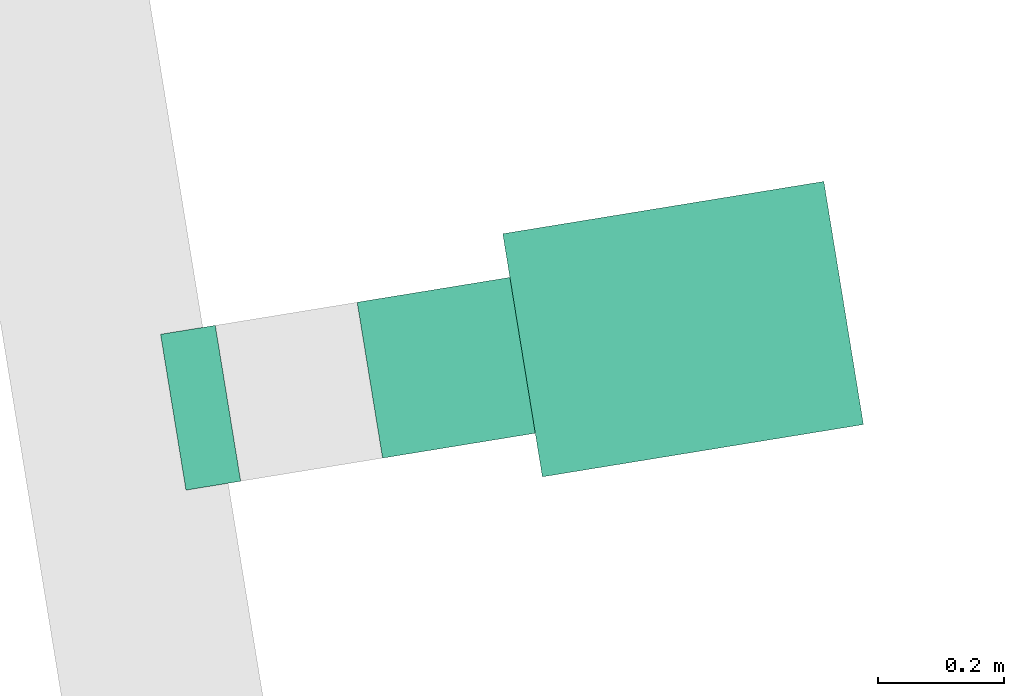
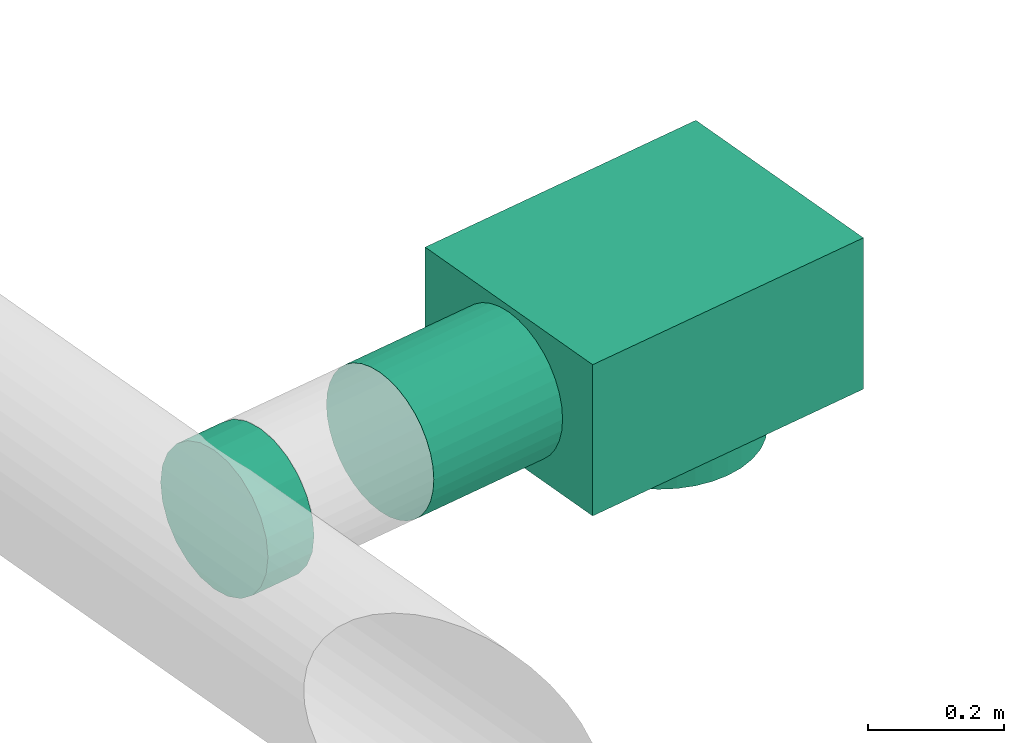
# One storey, part 16 of 19: 1 flow fitting, 1 flow terminal.
"""IFC2X3 building model written with IfcOpenShell, lengths in millimetres."""

import ifcopenshell
import ifcopenshell.guid

model = None  # the IFC model being written
_history = None  # IfcOwnerHistory: only IFC2X3 demands one
_inside = {}  # id of a spatial element -> (the spatial element, [elements in it])
_under = {}  # id of a project, library or spatial element -> (it, [spatial elements below it])
_declared = {}  # id of a project -> (the project, [libraries it declares])
_typed = {}  # id of a type object -> (the type object, [elements of that type])
_made_of = {}  # id of a material, layer set ... -> (it, [elements and type objects made of it])


def new_model(schema):
    """Start an empty IFC model of exactly this schema.

    Asked for "IFC4X3", IfcOpenShell would pick the latest addendum, in which some entities
    have other attributes; the version numbers below select the first issue.
    IFC2X3 requires an IfcOwnerHistory on every rooted entity: one is made here for all.
    """
    global model, _history
    if schema == "IFC4X3":
        model = ifcopenshell.file(schema_version=(4, 3, 0, 0))
    else:
        model = ifcopenshell.file(schema=schema)
    _inside.clear()
    _under.clear()
    _declared.clear()
    _typed.clear()
    _made_of.clear()
    _history = None
    if model.schema == "IFC2X3":
        org = make("IfcOrganization", Name="unknown")
        user = make(
            "IfcPersonAndOrganization",
            ThePerson=make("IfcPerson", FamilyName="unknown"),
            TheOrganization=org,
        )
        app = make(
            "IfcApplication",
            ApplicationDeveloper=org,
            Version="unknown",
            ApplicationFullName="unknown",
            ApplicationIdentifier="unknown",
        )
        _history = make(
            "IfcOwnerHistory",
            OwningUser=user,
            OwningApplication=app,
            ChangeAction="ADDED",
            CreationDate=0,
        )
    return model


def make(cls, **values):
    """One entity of the class cls with the attributes given. An attribute that is None is left unset."""
    return model.create_entity(
        cls, **{name: value for name, value in values.items() if value is not None}
    )


def entity(cls, *values):
    """Any entity or typed value of the class cls, its attributes in the order of the schema. None: left unset."""
    e = model.create_entity(cls)
    for i, value in enumerate(values):
        if value is not None:
            e[i] = value
    return e


def rooted(cls, **values):
    """An entity with a GlobalId (a new one), such as an element, a storey or a relation."""
    return make(cls, GlobalId=ifcopenshell.guid.new(), OwnerHistory=_history, **values)


def si_unit(unit_type, name, prefix=None):
    """IfcSIUnit, for example si_unit("LENGTHUNIT", "METRE", prefix="MILLI")."""
    return make("IfcSIUnit", UnitType=unit_type, Prefix=prefix, Name=name)


def converted_unit(unit_type, name, factor, base, dimensions=None, offset=None):
    """IfcConversionBasedUnit, such as the inch: factor (a typed value) times the base unit."""
    return make(
        "IfcConversionBasedUnit"
        if offset is None
        else "IfcConversionBasedUnitWithOffset",
        ConversionOffset=offset,
        Dimensions=None
        if dimensions is None
        else entity("IfcDimensionalExponents", *dimensions),
        UnitType=unit_type,
        Name=name,
        ConversionFactor=make(
            "IfcMeasureWithUnit", ValueComponent=factor, UnitComponent=base
        ),
    )


def derived_unit(unit_type, elements):
    """IfcDerivedUnit: a product of units, each with its exponent."""
    return make(
        "IfcDerivedUnit",
        Elements=[
            make("IfcDerivedUnitElement", Unit=unit, Exponent=power)
            for unit, power in elements
        ],
        UnitType=unit_type,
    )


def assignment(units):
    """IfcUnitAssignment: the units of a project."""
    return None if units is None else make("IfcUnitAssignment", Units=units)


def point(xyz):
    """IfcCartesianPoint."""
    return None if xyz is None else make("IfcCartesianPoint", Coordinates=xyz)


def direction(xyz):
    """IfcDirection."""
    return None if xyz is None else make("IfcDirection", DirectionRatios=xyz)


def frame(location, z_axis=None, x_axis=None):
    """IfcAxis2Placement3D, a coordinate frame: its origin and axes. An axis left out is left unset."""
    return make(
        "IfcAxis2Placement3D",
        Location=point(location),
        Axis=direction(z_axis),
        RefDirection=direction(x_axis),
    )


def origin():
    """The frame at (0, 0, 0) with its axes left unset."""
    return frame((0.0, 0.0, 0.0))


def origin_with_axes():
    """The frame at (0, 0, 0) with the z axis (0, 0, 1) and the x axis (1, 0, 0) written out."""
    return frame((0.0, 0.0, 0.0), z_axis=(0.0, 0.0, 1.0), x_axis=(1.0, 0.0, 0.0))


def place(relative_to, where):
    """IfcLocalPlacement: puts the frame where relative to a parent placement (None: the world)."""
    return make(
        "IfcLocalPlacement", PlacementRelTo=relative_to, RelativePlacement=where
    )


def context(
    kind, dimensions, precision=None, world=None, true_north=None, identifier=None
):
    """IfcGeometricRepresentationContext, for example the 3D "Model" context."""
    return make(
        "IfcGeometricRepresentationContext",
        ContextIdentifier=identifier,
        ContextType=kind,
        CoordinateSpaceDimension=dimensions,
        Precision=precision,
        WorldCoordinateSystem=world,
        TrueNorth=true_north,
    )


def subcontext(parent, identifier, kind, view, scale=None):
    """IfcGeometricRepresentationSubContext, for example "Body" below "Model"."""
    return make(
        "IfcGeometricRepresentationSubContext",
        ContextIdentifier=identifier,
        ContextType=kind,
        ParentContext=parent,
        TargetScale=scale,
        TargetView=view,
    )


def project(units=None, contexts=None):
    """IfcProject with its units and contexts."""
    return rooted(
        "IfcProject",
        Name="project",
        RepresentationContexts=contexts,
        UnitsInContext=assignment(units),
    )


def spatial(cls, under=None, at=None, **own):
    """A site, building, storey or space (cls), placed at a placement, below another one or the project."""
    s = rooted(cls, ObjectPlacement=at, **own)
    if under is not None:
        _under.setdefault(under.id(), (under, []))[1].append(s)
    return s


def faces_of(points, faces, orient=None, outer=None):
    """IfcFace entities. A face is a list of loops; a loop is a list of indices into points, from 0.

    orient and outer hold one flag for each loop. By default every Orientation is true, the
    first loop of a face is its IfcFaceOuterBound and the others are IfcFaceBound.
    """
    made = []
    for i, loops in enumerate(faces):
        bounds = []
        for j, loop in enumerate(loops):
            is_outer = j == 0 if outer is None else outer[i][j]
            bounds.append(
                make(
                    "IfcFaceOuterBound" if is_outer else "IfcFaceBound",
                    Bound=make("IfcPolyLoop", Polygon=[points[k] for k in loop]),
                    Orientation=True if orient is None else orient[i][j],
                )
            )
        made.append(make("IfcFace", Bounds=bounds))
    return made


def faceted_brep(points, faces, orient=None, outer=None, voids=None):
    """IfcFacetedBrep: a solid bounded by flat faces; with voids (closed shells), ...WithVoids."""
    shared = [point(p) for p in points]
    hull = make("IfcClosedShell", CfsFaces=faces_of(shared, faces, orient, outer))
    if voids is None:
        return make("IfcFacetedBrep", Outer=hull)
    return make(
        "IfcFacetedBrepWithVoids",
        Outer=hull,
        Voids=[
            make(cls, CfsFaces=faces_of(shared, fs, o, b)) for cls, fs, o, b in voids
        ],
    )


def shape(context_of_items, identifier, shape_type, items):
    """IfcShapeRepresentation: the items that make up one representation, for example the "Body"."""
    return make(
        "IfcShapeRepresentation",
        ContextOfItems=context_of_items,
        RepresentationIdentifier=identifier,
        RepresentationType=shape_type,
        Items=items,
    )


def source(mapping_origin, context_of_items, identifier, shape_type, items):
    """IfcRepresentationMap: a shape defined once, which mapped items show again and again."""
    return make(
        "IfcRepresentationMap",
        MappingOrigin=mapping_origin,
        MappedRepresentation=shape(context_of_items, identifier, shape_type, items),
    )


def transform(
    local_origin,
    x_axis=None,
    y_axis=None,
    z_axis=None,
    scale=None,
    scale2=None,
    scale3=None,
    uniform=True,
):
    """IfcCartesianTransformationOperator3D, or its non-uniform kind. x_axis, y_axis, z_axis: its Axis1, 2, 3."""
    if uniform:
        return make(
            "IfcCartesianTransformationOperator3D",
            Axis1=direction(x_axis),
            Axis2=direction(y_axis),
            LocalOrigin=point(local_origin),
            Scale=scale,
            Axis3=direction(z_axis),
        )
    return make(
        "IfcCartesianTransformationOperator3DnonUniform",
        Axis1=direction(x_axis),
        Axis2=direction(y_axis),
        LocalOrigin=point(local_origin),
        Scale=scale,
        Axis3=direction(z_axis),
        Scale2=scale2,
        Scale3=scale3,
    )


def mapped(mapping_source, mapping_target):
    """IfcMappedItem: shows the shape of a source again, moved by a transform."""
    return make(
        "IfcMappedItem", MappingSource=mapping_source, MappingTarget=mapping_target
    )


def material(Name=None, Category=None):
    """IfcMaterial."""
    return make("IfcMaterial", Name=Name, Category=Category)


def made_of(thing, what):
    """Note that an element or type object is made of a material, layer set ...; save() writes the relation."""
    if what is not None:
        _made_of.setdefault(what.id(), (what, []))[1].append(thing)
    return thing


def type_object(cls, material=None, **own):
    """A type object (cls), such as IfcWallType, which elements share."""
    return made_of(rooted(cls, **own), material)


def element(
    cls,
    number,
    at=None,
    inside=None,
    cuts=None,
    type_object=None,
    material=None,
    context=None,
    identifier="Body",
    shape_type=None,
    held_by="IfcProductDefinitionShape",
    body=None,
    shapes=None,
    **own,
):
    """One element of the class cls, such as IfcWall. Its Tag is "e" and its number.

    at: its placement. inside: the storey or other place that contains it. cuts: it is an
    opening in that element (IfcRelVoidsElement). A single representation is given by context,
    identifier, shape_type and body (its items); several are given by shapes. held_by: the class
    of the entity that holds the representations. save() writes the other relations.
    """
    e = rooted(cls, Tag="e%d" % number, ObjectPlacement=at, **own)
    if body is not None:
        shapes = [shape(context, identifier, shape_type, body)]
    if shapes is not None:
        e.Representation = make(held_by, Representations=shapes)
    if inside is not None:
        _inside.setdefault(inside.id(), (inside, []))[1].append(e)
    if cuts is not None:
        rooted(
            "IfcRelVoidsElement", RelatingBuildingElement=cuts, RelatedOpeningElement=e
        )
    if type_object is not None:
        _typed.setdefault(type_object.id(), (type_object, []))[1].append(e)
    return made_of(e, material)


def aggregate(whole, parts):
    """IfcRelAggregates: a whole, such as a stair, and the parts it consists of."""
    return rooted("IfcRelAggregates", RelatingObject=whole, RelatedObjects=parts)


def save(model, path):
    """Write the relations noted so far, then the file.

    IfcRelAggregates (storeys below a building ...), IfcRelContainedInSpatialStructure (elements
    in a storey), IfcRelDefinesByType, IfcRelAssociatesMaterial and IfcRelDeclares: one each for
    every whole, place, type object, material and project.
    """
    for whole, parts in _under.values():
        aggregate(whole, parts)
    for where, things in _inside.values():
        rooted(
            "IfcRelContainedInSpatialStructure",
            RelatedElements=things,
            RelatingStructure=where,
        )
    for kind, things in _typed.values():
        rooted("IfcRelDefinesByType", RelatedObjects=things, RelatingType=kind)
    for what, things in _made_of.values():
        rooted("IfcRelAssociatesMaterial", RelatedObjects=things, RelatingMaterial=what)
    for by, libraries in _declared.values():
        rooted("IfcRelDeclares", RelatingContext=by, RelatedDefinitions=libraries)
    model.write(path)


model = new_model("IFC2X3")

# Units and contexts
model_context = context("Model", 3, precision=0.01, world=origin(), true_north=direction((6.12323399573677e-17, 1.0)))
plan_context = context("Plan", 3, precision=1e-05, world=origin_with_axes())
body_context = subcontext(model_context, "Body", "Model", "MODEL_VIEW")
ifc_project = project(units=[converted_unit("PLANEANGLEUNIT", "DEGREE", entity("IfcPositiveLengthMeasure", 0.0174532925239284), si_unit("PLANEANGLEUNIT", "RADIAN"), dimensions=[0, 0, 0, 0, 0, 0, 0]), si_unit("AREAUNIT", "SQUARE_METRE"), si_unit("LENGTHUNIT", "METRE", prefix="MILLI"), si_unit("MASSUNIT", "GRAM", prefix="KILO"), si_unit("POWERUNIT", "WATT"), si_unit("PRESSUREUNIT", "PASCAL", prefix="KILO"), si_unit("FORCEUNIT", "NEWTON", prefix="KILO"), si_unit("ELECTRICVOLTAGEUNIT", "VOLT"), si_unit("ELECTRICCURRENTUNIT", "AMPERE"), si_unit("THERMODYNAMICTEMPERATUREUNIT", "DEGREE_CELSIUS"), si_unit("TIMEUNIT", "SECOND"), si_unit("VOLUMEUNIT", "CUBIC_METRE"), derived_unit("LINEARVELOCITYUNIT", [(si_unit("LENGTHUNIT", "METRE"), 1), (si_unit("TIMEUNIT", "SECOND"), -1)]), derived_unit("VOLUMETRICFLOWRATEUNIT", [(si_unit("VOLUMEUNIT", "CUBIC_METRE"), 1), (si_unit("TIMEUNIT", "SECOND"), -1)]), derived_unit("THERMALTRANSMITTANCEUNIT", [(si_unit("POWERUNIT", "WATT"), 1), (si_unit("THERMODYNAMICTEMPERATUREUNIT", "KELVIN"), -1), (si_unit("AREAUNIT", "SQUARE_METRE"), -1)]), derived_unit("SOUNDPRESSUREUNIT", [(si_unit("PRESSUREUNIT", "PASCAL"), 1)])], contexts=[model_context, plan_context])

# Site, building, storey
site_placement = place(None, frame((5.09380697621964e-08, 5.80416781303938e-08, 0.0), z_axis=(0.0, 0.0, 1.0), x_axis=(-0.160806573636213, 0.986985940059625, 0.0)))
site = spatial("IfcSite", under=ifc_project, at=site_placement, Name="Default", CompositionType="ELEMENT")
building_placement = place(site_placement, frame((0.0, 0.0, 0.0), z_axis=(0.0, 0.0, 1.0), x_axis=(1.0, -2.77555756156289e-17, 0.0)))
building = spatial("IfcBuilding", under=site, at=building_placement, Name="Bygning (endres i Project Information)", CompositionType="ELEMENT")
storey_placement = place(building_placement, frame((0.0, 0.0, 51360.0000000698), z_axis=(0.0, 0.0, 1.0), x_axis=(1.0, -2.77555756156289e-17, 0.0)))
storey = spatial("IfcBuildingStorey", under=building, at=storey_placement, Name="H01-Nivå D+0,36", CompositionType="ELEMENT", Elevation=51360.0000000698)

# Flow fitting
ifc_material = material(Name="3601.001 Tilluft")
duct_fitting_type = type_object("IfcDuctFittingType", Name="magicirc_tapoutlet_001:magicirc_tapoutlet_001", PredefinedType="NOTDEFINED", material=ifc_material)
shared_shape = source(origin(), body_context, "Body", "Brep", [
    faceted_brep([(-67.7771606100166, -32.3523806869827, -120.74072846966), (-67.7771606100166, -62.5000000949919, -108.253175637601), (-67.7771606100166, -88.3883477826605, -88.3883477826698), (-67.7771606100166, -108.253175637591, -62.5000000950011), (-67.7771606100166, -120.740728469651, -32.3523806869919), (-67.7771606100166, -125.000000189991, 0.0), (-67.7771606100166, -120.74072846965, 32.3523806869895), (-67.7771606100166, -108.25317563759, 62.5000000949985), (-67.7771606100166, -88.3883477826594, 88.3883477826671), (-67.7771606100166, -62.5000000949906, 108.253175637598), (-67.7771606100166, -32.3523806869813, 120.740728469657), (-67.7771606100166, 0.0, 125.000000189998), (-67.7771606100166, 32.3523806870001, 120.740728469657), (-67.7771606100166, 62.5000000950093, 108.253175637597), (-67.7771606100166, 88.3883477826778, 88.388347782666), (-67.7771606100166, 108.253175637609, 62.5000000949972), (-67.7771606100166, 120.740728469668, 32.3523806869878), (-67.7771606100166, 125.00000019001, 0.0), (-67.7771606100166, 120.740728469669, -32.3523806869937), (-67.7771606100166, 108.253175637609, -62.5000000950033), (-67.7771606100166, 88.3883477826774, -88.3883477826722), (-67.7771606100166, 62.500000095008, -108.253175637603), (-67.7771606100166, 32.352380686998, -120.740728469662), (-67.7771606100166, 0.0, -125.000000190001), (0.0, -32.3523806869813, 120.740728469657), (20.0, -32.3523806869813, 120.740728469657), (20.0, 0.0, 125.000000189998), (0.0, 0.0, 125.000000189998), (0.0, -62.5000000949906, 108.253175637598), (20.0, -62.5000000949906, 108.253175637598), (0.0, -88.3883477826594, 88.3883477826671), (20.0, -88.3883477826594, 88.3883477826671), (0.0, -120.74072846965, 32.3523806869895), (20.0, -120.74072846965, 32.3523806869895), (20.0, -108.25317563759, 62.5000000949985), (0.0, -108.25317563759, 62.5000000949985), (0.0, -125.000000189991, 0.0), (20.0, -125.000000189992, 0.0), (0.0, -120.740728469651, -32.3523806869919), (20.0, -120.740728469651, -32.3523806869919), (0.0, -108.253175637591, -62.5000000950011), (20.0, -108.253175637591, -62.5000000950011), (0.0, -88.3883477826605, -88.3883477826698), (20.0, -88.3883477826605, -88.3883477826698), (0.0, -32.3523806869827, -120.74072846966), (20.0, -32.3523806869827, -120.74072846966), (20.0, -62.5000000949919, -108.253175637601), (0.0, -62.5000000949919, -108.253175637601), (0.0, 0.0, -125.000000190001), (20.0, 0.0, -125.000000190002), (0.0, 32.352380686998, -120.740728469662), (20.0, 32.352380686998, -120.740728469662), (0.0, 62.500000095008, -108.253175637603), (20.0, 62.500000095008, -108.253175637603), (0.0, 88.3883477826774, -88.3883477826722), (20.0, 88.3883477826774, -88.3883477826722), (0.0, 120.740728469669, -32.3523806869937), (20.0, 120.740728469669, -32.3523806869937), (20.0, 108.253175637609, -62.5000000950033), (0.0, 108.253175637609, -62.5000000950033), (0.0, 125.00000019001, 0.0), (20.0, 125.000000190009, 0.0), (0.0, 120.740728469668, 32.3523806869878), (20.0, 120.740728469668, 32.3523806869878), (0.0, 108.253175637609, 62.5000000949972), (20.0, 108.253175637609, 62.5000000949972), (0.0, 88.3883477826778, 88.388347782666), (20.0, 88.3883477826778, 88.388347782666), (0.0, 32.3523806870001, 120.740728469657), (20.0, 32.3523806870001, 120.740728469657), (20.0, 62.5000000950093, 108.253175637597), (0.0, 62.5000000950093, 108.253175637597)], [[[0, 1, 2, 3, 4, 5, 6, 7, 8, 9, 10, 11, 12, 13, 14, 15, 16, 17, 18, 19, 20, 21, 22, 23]], [[24, 25, 26, 27, 11, 10]], [[28, 29, 25, 24, 10, 9]], [[30, 31, 29, 28, 9, 8]], [[32, 33, 34, 35, 7, 6]], [[36, 37, 33, 32, 6, 5]], [[7, 35, 34, 31, 30, 8]], [[38, 39, 37, 36, 5, 4]], [[40, 41, 39, 38, 4, 3]], [[42, 43, 41, 40, 3, 2]], [[44, 45, 46, 47, 1, 0]], [[48, 49, 45, 44, 0, 23]], [[1, 47, 46, 43, 42, 2]], [[50, 51, 49, 48, 23, 22]], [[52, 53, 51, 50, 22, 21]], [[54, 55, 53, 52, 21, 20]], [[56, 57, 58, 59, 19, 18]], [[60, 61, 57, 56, 18, 17]], [[19, 59, 58, 55, 54, 20]], [[62, 63, 61, 60, 17, 16]], [[64, 65, 63, 62, 16, 15]], [[66, 67, 65, 64, 15, 14]], [[68, 69, 70, 71, 13, 12]], [[27, 26, 69, 68, 12, 11]], [[13, 71, 70, 67, 66, 14]], [[49, 51, 53, 55, 58, 57, 61, 63, 65, 67, 70, 69, 26, 25, 29, 31, 34, 33, 37, 39, 41, 43, 46, 45]]]),
    faceted_brep([(20.0, 0.0, -125.000000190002), (20.0, 32.352380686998, -120.740728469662), (20.0, 62.500000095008, -108.253175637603), (20.0, 88.3883477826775, -88.3883477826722), (20.0, 108.253175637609, -62.5000000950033), (20.0, 120.740728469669, -32.3523806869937), (20.0, 125.000000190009, 0.0), (20.0, 120.740728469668, 32.3523806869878), (20.0, 108.253175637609, 62.5000000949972), (20.0, 88.3883477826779, 88.388347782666), (20.0, 62.5000000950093, 108.253175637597), (20.0, 32.3523806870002, 120.740728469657), (20.0, 0.0, 125.000000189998), (20.0, -32.3523806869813, 120.740728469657), (20.0, -62.5000000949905, 108.253175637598), (20.0, -88.3883477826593, 88.3883477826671), (20.0, -108.25317563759, 62.5000000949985), (20.0, -120.74072846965, 32.3523806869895), (20.0, -125.000000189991, 0.0), (20.0, -120.740728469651, -32.3523806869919), (20.0, -108.253175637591, -62.5000000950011), (20.0, -88.3883477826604, -88.3883477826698), (20.0, -62.5000000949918, -108.253175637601), (20.0, -32.3523806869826, -120.74072846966), (0.0, 0.0, 125.000000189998), (-67.7771606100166, 0.0, 125.000000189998), (-67.7771606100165, -32.3523806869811, 120.740728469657), (0.0, -32.3523806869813, 120.740728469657), (-67.7771606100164, -62.5000000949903, 108.253175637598), (0.0, -62.5000000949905, 108.253175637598), (0.0, -88.3883477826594, 88.3883477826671), (-67.7771606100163, -88.3883477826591, 88.3883477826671), (0.0, -108.25317563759, 62.5000000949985), (-67.7771606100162, -108.25317563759, 62.5000000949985), (-67.7771606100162, -120.74072846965, 32.3523806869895), (0.0, -120.74072846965, 32.3523806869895), (-67.7771606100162, -125.000000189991, 0.0), (0.0, -125.000000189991, 0.0), (-67.7771606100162, -120.740728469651, -32.3523806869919), (0.0, -120.740728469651, -32.3523806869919), (-67.7771606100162, -108.253175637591, -62.5000000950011), (0.0, -108.253175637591, -62.5000000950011), (0.0, -88.3883477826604, -88.3883477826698), (-67.7771606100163, -88.3883477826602, -88.3883477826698), (0.0, 0.0, -125.000000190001), (0.0, -32.3523806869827, -120.74072846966), (-67.7771606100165, -32.3523806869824, -120.74072846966), (-67.7771606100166, 0.0, -125.000000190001), (0.0, -62.5000000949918, -108.253175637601), (-67.7771606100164, -62.5000000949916, -108.253175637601), (-67.7771606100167, 32.3523806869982, -120.740728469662), (0.0, 32.352380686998, -120.740728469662), (-67.7771606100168, 62.5000000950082, -108.253175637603), (0.0, 62.500000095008, -108.253175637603), (0.0, 88.3883477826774, -88.3883477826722), (-67.7771606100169, 88.3883477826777, -88.3883477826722), (0.0, 108.253175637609, -62.5000000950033), (-67.7771606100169, 108.253175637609, -62.5000000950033), (-67.777160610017, 120.74072846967, -32.3523806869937), (0.0, 120.740728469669, -32.3523806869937), (-67.777160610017, 125.00000019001, 0.0), (0.0, 125.00000019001, 0.0), (-67.777160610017, 120.740728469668, 32.3523806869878), (0.0, 120.740728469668, 32.3523806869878), (-67.7771606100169, 108.253175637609, 62.5000000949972), (0.0, 108.253175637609, 62.5000000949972), (0.0, 88.3883477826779, 88.388347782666), (-67.7771606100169, 88.3883477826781, 88.388347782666), (0.0, 62.5000000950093, 108.253175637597), (-67.7771606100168, 62.5000000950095, 108.253175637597), (-67.7771606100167, 32.3523806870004, 120.740728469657), (0.0, 32.3523806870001, 120.740728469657)], [[[0, 1, 2, 3, 4, 5, 6, 7, 8, 9, 10, 11, 12, 13, 14, 15, 16, 17, 18, 19, 20, 21, 22, 23]], [[13, 12, 24, 25, 26, 27]], [[14, 13, 27, 26, 28, 29]], [[30, 15, 14, 29, 28, 31]], [[17, 16, 32, 33, 34, 35]], [[18, 17, 35, 34, 36, 37]], [[32, 16, 15, 30, 31, 33]], [[19, 18, 37, 36, 38, 39]], [[20, 19, 39, 38, 40, 41]], [[42, 21, 20, 41, 40, 43]], [[44, 0, 23, 45, 46, 47]], [[45, 23, 22, 48, 49, 46]], [[48, 22, 21, 42, 43, 49]], [[1, 0, 44, 47, 50, 51]], [[2, 1, 51, 50, 52, 53]], [[54, 3, 2, 53, 52, 55]], [[5, 4, 56, 57, 58, 59]], [[6, 5, 59, 58, 60, 61]], [[56, 4, 3, 54, 55, 57]], [[7, 6, 61, 60, 62, 63]], [[8, 7, 63, 62, 64, 65]], [[66, 9, 8, 65, 64, 67]], [[11, 10, 68, 69, 70, 71]], [[12, 11, 71, 70, 25, 24]], [[68, 10, 9, 66, 67, 69]], [[46, 49, 43, 40, 38, 36, 34, 33, 31, 28, 26, 25, 70, 69, 67, 64, 62, 60, 58, 57, 55, 52, 50, 47]]]),
    faceted_brep([(-67.7771606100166, -32.3523806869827, -120.74072846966), (-67.7771606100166, -62.5000000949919, -108.253175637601), (-67.7771606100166, -88.3883477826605, -88.3883477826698), (-67.7771606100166, -108.253175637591, -62.5000000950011), (-67.7771606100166, -120.740728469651, -32.3523806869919), (-67.7771606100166, -125.000000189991, 0.0), (-67.7771606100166, -120.74072846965, 32.3523806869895), (-67.7771606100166, -108.25317563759, 62.5000000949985), (-67.7771606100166, -88.3883477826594, 88.3883477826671), (-67.7771606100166, -62.5000000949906, 108.253175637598), (-67.7771606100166, -32.3523806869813, 120.740728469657), (-67.7771606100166, 0.0, 125.000000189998), (-67.7771606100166, 32.3523806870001, 120.740728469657), (-67.7771606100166, 62.5000000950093, 108.253175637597), (-67.7771606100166, 88.3883477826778, 88.388347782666), (-67.7771606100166, 108.253175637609, 62.5000000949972), (-67.7771606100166, 120.740728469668, 32.3523806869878), (-67.7771606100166, 125.00000019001, 0.0), (-67.7771606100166, 120.740728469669, -32.3523806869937), (-67.7771606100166, 108.253175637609, -62.5000000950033), (-67.7771606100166, 88.3883477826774, -88.3883477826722), (-67.7771606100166, 62.500000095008, -108.253175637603), (-67.7771606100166, 32.352380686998, -120.740728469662), (-67.7771606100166, 0.0, -125.000000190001), (0.0, -32.3523806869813, 120.740728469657), (20.0, -32.3523806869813, 120.740728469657), (20.0, 0.0, 125.000000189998), (0.0, 0.0, 125.000000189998), (0.0, -62.5000000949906, 108.253175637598), (20.0, -62.5000000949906, 108.253175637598), (0.0, -88.3883477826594, 88.3883477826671), (20.0, -88.3883477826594, 88.3883477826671), (0.0, -120.74072846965, 32.3523806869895), (20.0, -120.74072846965, 32.3523806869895), (20.0, -108.25317563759, 62.5000000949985), (0.0, -108.25317563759, 62.5000000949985), (0.0, -125.000000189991, 0.0), (20.0, -125.000000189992, 0.0), (0.0, -120.740728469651, -32.3523806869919), (20.0, -120.740728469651, -32.3523806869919), (0.0, -108.253175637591, -62.5000000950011), (20.0, -108.253175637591, -62.5000000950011), (0.0, -88.3883477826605, -88.3883477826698), (20.0, -88.3883477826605, -88.3883477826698), (0.0, -32.3523806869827, -120.74072846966), (20.0, -32.3523806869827, -120.74072846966), (20.0, -62.5000000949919, -108.253175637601), (0.0, -62.5000000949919, -108.253175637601), (0.0, 0.0, -125.000000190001), (20.0, 0.0, -125.000000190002), (0.0, 32.352380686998, -120.740728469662), (20.0, 32.352380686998, -120.740728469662), (0.0, 62.500000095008, -108.253175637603), (20.0, 62.500000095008, -108.253175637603), (0.0, 88.3883477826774, -88.3883477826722), (20.0, 88.3883477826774, -88.3883477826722), (0.0, 120.740728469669, -32.3523806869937), (20.0, 120.740728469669, -32.3523806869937), (20.0, 108.253175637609, -62.5000000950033), (0.0, 108.253175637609, -62.5000000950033), (0.0, 125.00000019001, 0.0), (20.0, 125.000000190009, 0.0), (0.0, 120.740728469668, 32.3523806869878), (20.0, 120.740728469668, 32.3523806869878), (0.0, 108.253175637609, 62.5000000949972), (20.0, 108.253175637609, 62.5000000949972), (0.0, 88.3883477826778, 88.388347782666), (20.0, 88.3883477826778, 88.388347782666), (0.0, 32.3523806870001, 120.740728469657), (20.0, 32.3523806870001, 120.740728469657), (20.0, 62.5000000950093, 108.253175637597), (0.0, 62.5000000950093, 108.253175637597)], [[[0, 1, 2, 3, 4, 5, 6, 7, 8, 9, 10, 11, 12, 13, 14, 15, 16, 17, 18, 19, 20, 21, 22, 23]], [[24, 25, 26, 27, 11, 10]], [[28, 29, 25, 24, 10, 9]], [[30, 31, 29, 28, 9, 8]], [[32, 33, 34, 35, 7, 6]], [[36, 37, 33, 32, 6, 5]], [[7, 35, 34, 31, 30, 8]], [[38, 39, 37, 36, 5, 4]], [[40, 41, 39, 38, 4, 3]], [[42, 43, 41, 40, 3, 2]], [[44, 45, 46, 47, 1, 0]], [[48, 49, 45, 44, 0, 23]], [[1, 47, 46, 43, 42, 2]], [[50, 51, 49, 48, 23, 22]], [[52, 53, 51, 50, 22, 21]], [[54, 55, 53, 52, 21, 20]], [[56, 57, 58, 59, 19, 18]], [[60, 61, 57, 56, 18, 17]], [[19, 59, 58, 55, 54, 20]], [[62, 63, 61, 60, 17, 16]], [[64, 65, 63, 62, 16, 15]], [[66, 67, 65, 64, 15, 14]], [[68, 69, 70, 71, 13, 12]], [[27, 26, 69, 68, 12, 11]], [[13, 71, 70, 67, 66, 14]], [[49, 51, 53, 55, 58, 57, 61, 63, 65, 67, 70, 69, 26, 25, 29, 31, 34, 33, 37, 39, 41, 43, 46, 45]]]),
])
flow_fitting_placement = place(storey_placement, frame((1007095.04333221, -393498.668779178, 3350.0), z_axis=(0.0, 0.0, -1.0), x_axis=(-2.77555756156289e-17, -1.0, 0.0)))
element("IfcFlowFitting", 1, at=flow_fitting_placement, inside=storey, type_object=duct_fitting_type, material=ifc_material, Name="magicirc_tapoutlet_001:magicirc_tapoutlet_001", ObjectType="magicirc_tapoutlet_001:magicirc_tapoutlet_001", context=body_context, shape_type="MappedRepresentation", body=[
    mapped(shared_shape, transform((0.0, 0.0, 0.0), scale=1.0)),
])

# Flow terminal
air_terminal_type = type_object("IfcAirTerminalType", Name="Orion-LOV-TA+Luna:Orion-LOV-TA-315+Luna-250-315", PredefinedType="NOTDEFINED", material=ifc_material)
flow_terminal_placement = place(storey_placement, frame((1007095.04333221, -394278.28836624, 2700.0), z_axis=(0.0, 0.0, 1.0), x_axis=(-2.77555756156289e-17, -1.0, 0.0)))
element("IfcFlowTerminal", 2, at=flow_terminal_placement, inside=storey, type_object=air_terminal_type, Name="Orion-LOV-TA+Luna:Orion-LOV-TA-315+Luna-250-315", ObjectType="Orion-LOV-TA+Luna:Orion-LOV-TA-315+Luna-250-315", context=body_context, shape_type="Brep", body=[
    faceted_brep([(-287.0, -195.0, 514.0), (-287.0, -195.0, 786.0), (228.0, -195.0, 786.0), (228.0, -195.0, 514.0), (228.0, 195.0, 786.0), (228.0, 195.0, 514.0), (-287.0, 195.0, 786.0), (-287.0, 195.0, 514.0)], [[[0, 1, 2, 3]], [[3, 2, 4, 5]], [[5, 4, 6, 7]], [[7, 6, 1, 0]], [[0, 3, 5, 7]], [[2, 1, 6, 4]]], orient=[[False], [False], [False], [False], [False], [False]]),
    faceted_brep([(-532.0, -21.7060222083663, 526.899030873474), (-287.0, -21.7060222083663, 526.899030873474), (-287.0, -8.45989944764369e-15, 525.0), (-532.0, -8.45989944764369e-15, 525.0), (-287.0, 21.7060222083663, 526.899030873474), (-532.0, 21.7060222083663, 526.899030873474), (-287.0, 42.7525179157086, 532.538422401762), (-532.0, 42.7525179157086, 532.538422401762), (-287.0, 62.5, 541.746824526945), (-532.0, 62.5, 541.746824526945), (-287.0, 80.3484512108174, 554.244444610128), (-532.0, 80.3484512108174, 554.244444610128), (-287.0, 95.7555553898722, 569.651548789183), (-532.0, 95.7555553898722, 569.651548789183), (-287.0, 108.253175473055, 587.5), (-532.0, 108.253175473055, 587.5), (-287.0, 117.461577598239, 607.247482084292), (-532.0, 117.461577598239, 607.247482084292), (-287.0, 123.100969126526, 628.293977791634), (-532.0, 123.100969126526, 628.293977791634), (-287.0, 125.0, 650.0), (-532.0, 125.0, 650.0), (-287.0, 123.100969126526, 671.706022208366), (-532.0, 123.100969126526, 671.706022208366), (-287.0, 117.461577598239, 692.752517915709), (-532.0, 117.461577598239, 692.752517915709), (-287.0, 108.253175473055, 712.5), (-532.0, 108.253175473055, 712.5), (-287.0, 95.7555553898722, 730.348451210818), (-532.0, 95.7555553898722, 730.348451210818), (-287.0, 80.3484512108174, 745.755555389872), (-532.0, 80.3484512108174, 745.755555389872), (-287.0, 62.5, 758.253175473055), (-532.0, 62.5, 758.253175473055), (-287.0, 42.7525179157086, 767.461577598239), (-532.0, 42.7525179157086, 767.461577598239), (-287.0, 21.7060222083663, 773.100969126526), (-532.0, 21.7060222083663, 773.100969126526), (-287.0, 6.84818554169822e-15, 775.0), (-532.0, 6.84818554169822e-15, 775.0), (-287.0, -21.7060222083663, 773.100969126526), (-532.0, -21.7060222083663, 773.100969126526), (-287.0, -42.7525179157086, 767.461577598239), (-532.0, -42.7525179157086, 767.461577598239), (-287.0, -62.5, 758.253175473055), (-532.0, -62.5, 758.253175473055), (-287.0, -80.3484512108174, 745.755555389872), (-532.0, -80.3484512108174, 745.755555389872), (-287.0, -95.7555553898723, 730.348451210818), (-532.0, -95.7555553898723, 730.348451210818), (-287.0, -108.253175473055, 712.5), (-532.0, -108.253175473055, 712.5), (-287.0, -117.461577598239, 692.752517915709), (-532.0, -117.461577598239, 692.752517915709), (-287.0, -123.100969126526, 671.706022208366), (-532.0, -123.100969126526, 671.706022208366), (-287.0, -125.0, 650.0), (-532.0, -125.0, 650.0), (-287.0, -123.100969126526, 628.293977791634), (-532.0, -123.100969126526, 628.293977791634), (-287.0, -117.461577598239, 607.247482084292), (-532.0, -117.461577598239, 607.247482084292), (-287.0, -108.253175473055, 587.5), (-532.0, -108.253175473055, 587.5), (-287.0, -95.7555553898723, 569.651548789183), (-532.0, -95.7555553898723, 569.651548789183), (-287.0, -80.3484512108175, 554.244444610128), (-532.0, -80.3484512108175, 554.244444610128), (-287.0, -62.5000000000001, 541.746824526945), (-532.0, -62.5000000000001, 541.746824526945), (-287.0, -42.7525179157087, 532.538422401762), (-532.0, -42.7525179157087, 532.538422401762)], [[[0, 1, 2, 3]], [[3, 2, 4, 5]], [[5, 4, 6, 7]], [[7, 6, 8, 9]], [[9, 8, 10, 11]], [[11, 10, 12, 13]], [[13, 12, 14, 15]], [[15, 14, 16, 17]], [[17, 16, 18, 19]], [[19, 18, 20, 21]], [[21, 20, 22, 23]], [[23, 22, 24, 25]], [[25, 24, 26, 27]], [[27, 26, 28, 29]], [[29, 28, 30, 31]], [[31, 30, 32, 33]], [[33, 32, 34, 35]], [[35, 34, 36, 37]], [[37, 36, 38, 39]], [[39, 38, 40, 41]], [[41, 40, 42, 43]], [[43, 42, 44, 45]], [[45, 44, 46, 47]], [[47, 46, 48, 49]], [[49, 48, 50, 51]], [[51, 50, 52, 53]], [[53, 52, 54, 55]], [[55, 54, 56, 57]], [[57, 56, 58, 59]], [[59, 58, 60, 61]], [[61, 60, 62, 63]], [[63, 62, 64, 65]], [[65, 64, 66, 67]], [[67, 66, 68, 69]], [[69, 68, 70, 71]], [[71, 70, 1, 0]], [[0, 3, 5, 7, 9, 11, 13, 15, 17, 19, 21, 23, 25, 27, 29, 31, 33, 35, 37, 39, 41, 43, 45, 47, 49, 51, 53, 55, 57, 59, 61, 63, 65, 67, 69, 71]], [[2, 1, 70, 68, 66, 64, 62, 60, 58, 56, 54, 52, 50, 48, 46, 44, 42, 40, 38, 36, 34, 32, 30, 28, 26, 24, 22, 20, 18, 16, 14, 12, 10, 8, 6, 4]]], orient=[[False], [False], [False], [False], [False], [False], [False], [False], [False], [False], [False], [False], [False], [False], [False], [False], [False], [False], [False], [False], [False], [False], [False], [False], [False], [False], [False], [False], [False], [False], [False], [False], [False], [False], [False], [False], [False], [False]]),
    faceted_brep([(0.0, 158.5, 439.999999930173), (27.5232361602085, 156.092028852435, 439.999999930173), (27.5232361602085, 156.092028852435, 514.0), (0.0, 158.5, 514.0), (-27.5232361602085, 156.092028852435, 439.999999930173), (-27.5232361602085, 156.092028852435, 514.0), (-54.2101927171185, 148.941280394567, 439.999999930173), (-54.2101927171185, 148.941280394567, 514.0), (-79.25, 137.265026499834, 439.999999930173), (-79.25, 137.265026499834, 514.0), (-101.881836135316, 121.418044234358, 439.999999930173), (-101.881836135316, 121.418044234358, 514.0), (-121.418044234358, 101.881836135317, 439.999999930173), (-121.418044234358, 101.881836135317, 514.0), (-137.265026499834, 79.2500000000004, 439.999999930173), (-137.265026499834, 79.2500000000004, 514.0), (-148.941280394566, 54.2101927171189, 439.999999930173), (-148.941280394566, 54.2101927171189, 514.0), (-156.092028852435, 27.5232361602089, 439.999999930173), (-156.092028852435, 27.5232361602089, 514.0), (-158.5, 4.2232883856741e-13, 439.999999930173), (-158.5, 4.2232883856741e-13, 514.0), (-156.092028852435, -27.523236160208, 439.999999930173), (-156.092028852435, -27.523236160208, 514.0), (-148.941280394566, -54.2101927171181, 439.999999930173), (-148.941280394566, -54.2101927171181, 514.0), (-137.265026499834, -79.2499999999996, 439.999999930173), (-137.265026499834, -79.2499999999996, 514.0), (-121.418044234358, -101.881836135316, 439.999999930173), (-121.418044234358, -101.881836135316, 514.0), (-101.881836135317, -121.418044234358, 439.999999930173), (-101.881836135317, -121.418044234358, 514.0), (-79.25, -137.265026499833, 439.999999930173), (-79.25, -137.265026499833, 514.0), (-54.2101927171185, -148.941280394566, 439.999999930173), (-54.2101927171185, -148.941280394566, 514.0), (-27.5232361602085, -156.092028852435, 439.999999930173), (-27.5232361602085, -156.092028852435, 514.0), (-1.94106517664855e-14, -158.5, 439.999999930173), (-1.94106517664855e-14, -158.5, 514.0), (27.5232361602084, -156.092028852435, 439.999999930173), (27.5232361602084, -156.092028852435, 514.0), (54.2101927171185, -148.941280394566, 439.999999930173), (54.2101927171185, -148.941280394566, 514.0), (79.25, -137.265026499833, 439.999999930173), (79.25, -137.265026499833, 514.0), (101.881836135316, -121.418044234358, 439.999999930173), (101.881836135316, -121.418044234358, 514.0), (121.418044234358, -101.881836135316, 439.999999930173), (121.418044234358, -101.881836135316, 514.0), (137.265026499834, -79.2499999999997, 439.999999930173), (137.265026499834, -79.2499999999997, 514.0), (148.941280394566, -54.2101927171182, 439.999999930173), (148.941280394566, -54.2101927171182, 514.0), (156.092028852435, -27.5232361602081, 439.999999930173), (156.092028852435, -27.523236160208, 514.0), (158.5, 3.83507535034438e-13, 439.999999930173), (158.5, 3.83507535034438e-13, 514.0), (156.092028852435, 27.5232361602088, 439.999999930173), (156.092028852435, 27.5232361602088, 514.0), (148.941280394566, 54.2101927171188, 439.999999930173), (148.941280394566, 54.2101927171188, 514.0), (137.265026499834, 79.2500000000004, 439.999999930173), (137.265026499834, 79.2500000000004, 514.0), (121.418044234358, 101.881836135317, 439.999999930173), (121.418044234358, 101.881836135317, 514.0), (101.881836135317, 121.418044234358, 439.999999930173), (101.881836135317, 121.418044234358, 514.0), (79.2500000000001, 137.265026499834, 439.999999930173), (79.2500000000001, 137.265026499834, 514.0), (54.2101927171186, 148.941280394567, 439.999999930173), (54.2101927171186, 148.941280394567, 514.0)], [[[0, 1, 2, 3]], [[4, 0, 3, 5]], [[6, 4, 5, 7]], [[8, 6, 7, 9]], [[10, 8, 9, 11]], [[12, 10, 11, 13]], [[14, 12, 13, 15]], [[16, 14, 15, 17]], [[18, 16, 17, 19]], [[20, 18, 19, 21]], [[22, 20, 21, 23]], [[24, 22, 23, 25]], [[26, 24, 25, 27]], [[28, 26, 27, 29]], [[30, 28, 29, 31]], [[32, 30, 31, 33]], [[34, 32, 33, 35]], [[36, 34, 35, 37]], [[38, 36, 37, 39]], [[40, 38, 39, 41]], [[42, 40, 41, 43]], [[44, 42, 43, 45]], [[46, 44, 45, 47]], [[48, 46, 47, 49]], [[50, 48, 49, 51]], [[52, 50, 51, 53]], [[54, 52, 53, 55]], [[56, 54, 55, 57]], [[58, 56, 57, 59]], [[60, 58, 59, 61]], [[62, 60, 61, 63]], [[64, 62, 63, 65]], [[66, 64, 65, 67]], [[68, 66, 67, 69]], [[70, 68, 69, 71]], [[1, 70, 71, 2]], [[3, 2, 71, 69, 67, 65, 63, 61, 59, 57, 55, 53, 51, 49, 47, 45, 43, 41, 39, 37, 35, 33, 31, 29, 27, 25, 23, 21, 19, 17, 15, 13, 11, 9, 7, 5]], [[4, 6, 8, 10, 12, 14, 16, 18, 20, 22, 24, 26, 28, 30, 32, 34, 36, 38, 40, 42, 44, 46, 48, 50, 52, 54, 56, 58, 60, 62, 64, 66, 68, 70, 1, 0]]], orient=[[False], [False], [False], [False], [False], [False], [False], [False], [False], [False], [False], [False], [False], [False], [False], [False], [False], [False], [False], [False], [False], [False], [False], [False], [False], [False], [False], [False], [False], [False], [False], [False], [False], [False], [False], [False], [False], [False]]),
])

save(model, "model.ifc")
